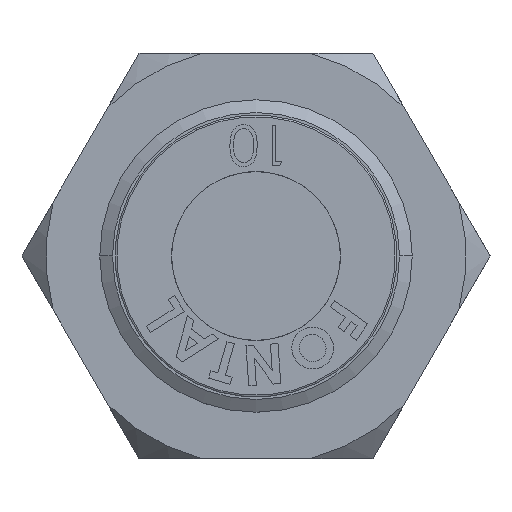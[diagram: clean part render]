
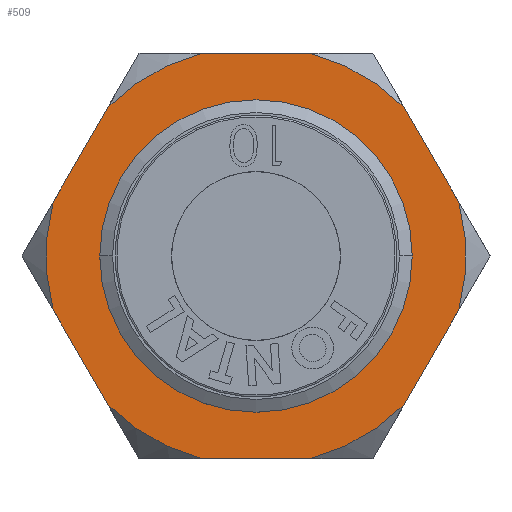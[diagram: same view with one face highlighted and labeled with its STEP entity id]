
A CAD part, left-side view. The second image highlights one B-rep face of the part: STEP entity #509.
In plain terms, the highlighted planar face has unit normal (-1, 0, 0) as drawn and (0, 0, -1) by its records, which use the part's own axes.
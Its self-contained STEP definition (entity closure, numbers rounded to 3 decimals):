
#138 = LINE ( 'NONE', #8660, #8904 ) ;
#211 = VECTOR ( 'NONE', #4998, 1000. ) ;
#215 = CARTESIAN_POINT ( 'NONE',  ( 12., 6.928, 0. ) ) ;
#281 = CIRCLE ( 'NONE', #3184, 12.431 ) ;
#418 = EDGE_CURVE ( 'NONE', #3896, #1962, #138, .T. ) ;
#509 = ADVANCED_FACE ( 'NONE', ( #3554, #5517 ), #4385, .F. ) ;
#513 = CIRCLE ( 'NONE', #4150, 9.25 ) ;
#623 = VERTEX_POINT ( 'NONE', #7894 ) ;
#647 = CARTESIAN_POINT ( 'NONE',  ( 0., 0., 0. ) ) ;
#664 = EDGE_CURVE ( 'NONE', #6565, #841, #6228, .T. ) ;
#739 = CARTESIAN_POINT ( 'NONE',  ( 0., 0., 0. ) ) ;
#743 = DIRECTION ( 'NONE',  ( 0., 0., 1. ) ) ;
#781 = CARTESIAN_POINT ( 'NONE',  ( 0., 0., 0. ) ) ;
#841 = VERTEX_POINT ( 'NONE', #9505 ) ;
#885 = CIRCLE ( 'NONE', #2480, 12.431 ) ;
#909 = VERTEX_POINT ( 'NONE', #3669 ) ;
#983 = CIRCLE ( 'NONE', #2148, 12.431 ) ;
#1069 = VECTOR ( 'NONE', #3427, 1000. ) ;
#1226 = CIRCLE ( 'NONE', #3318, 12.431 ) ;
#1254 = LINE ( 'NONE', #8360, #5242 ) ;
#1265 = VERTEX_POINT ( 'NONE', #2708 ) ;
#1431 = CARTESIAN_POINT ( 'NONE',  ( -8.81, 8.77, 0. ) ) ;
#1446 = DIRECTION ( 'NONE',  ( 1., 0., 0. ) ) ;
#1476 = DIRECTION ( 'NONE',  ( 0., 0., 1. ) ) ;
#1495 = EDGE_CURVE ( 'NONE', #6565, #1997, #6593, .T. ) ;
#1527 = EDGE_LOOP ( 'NONE', ( #5225, #4984 ) ) ;
#1596 = EDGE_CURVE ( 'NONE', #1265, #3127, #2021, .T. ) ;
#1849 = LINE ( 'NONE', #4379, #211 ) ;
#1962 = VERTEX_POINT ( 'NONE', #7410 ) ;
#1975 = LINE ( 'NONE', #215, #8957 ) ;
#1997 = VERTEX_POINT ( 'NONE', #1431 ) ;
#2021 = CIRCLE ( 'NONE', #8479, 9.25 ) ;
#2049 = CARTESIAN_POINT ( 'NONE',  ( -12., 3.244, 0. ) ) ;
#2148 = AXIS2_PLACEMENT_3D ( 'NONE', #6865, #8378, #9013 ) ;
#2234 = DIRECTION ( 'NONE',  ( 1., 0., 0. ) ) ;
#2480 = AXIS2_PLACEMENT_3D ( 'NONE', #6425, #4805, #8594 ) ;
#2655 = VERTEX_POINT ( 'NONE', #7525 ) ;
#2705 = DIRECTION ( 'NONE',  ( 0., 1., 0. ) ) ;
#2708 = CARTESIAN_POINT ( 'NONE',  ( 9.25, 0., 0. ) ) ;
#2709 = CARTESIAN_POINT ( 'NONE',  ( -9.25, 0., 0. ) ) ;
#2818 = EDGE_CURVE ( 'NONE', #3411, #1997, #1849, .T. ) ;
#3007 = ORIENTED_EDGE ( 'NONE', *, *, #7856, .T. ) ;
#3030 = DIRECTION ( 'NONE',  ( 1., 0., 0. ) ) ;
#3127 = VERTEX_POINT ( 'NONE', #2709 ) ;
#3184 = AXIS2_PLACEMENT_3D ( 'NONE', #8567, #7748, #8469 ) ;
#3190 = CARTESIAN_POINT ( 'NONE',  ( -3.19, 12.015, 0. ) ) ;
#3258 = DIRECTION ( 'NONE',  ( 0.866, 0.5, 0. ) ) ;
#3287 = ORIENTED_EDGE ( 'NONE', *, *, #418, .F. ) ;
#3318 = AXIS2_PLACEMENT_3D ( 'NONE', #7906, #4163, #4306 ) ;
#3324 = CARTESIAN_POINT ( 'NONE',  ( -12., 6.928, 0. ) ) ;
#3385 = EDGE_CURVE ( 'NONE', #5190, #909, #1254, .T. ) ;
#3411 = VERTEX_POINT ( 'NONE', #3190 ) ;
#3427 = DIRECTION ( 'NONE',  ( 0., -1., 0. ) ) ;
#3439 = EDGE_CURVE ( 'NONE', #8536, #9632, #1975, .T. ) ;
#3554 = FACE_BOUND ( 'NONE', #1527, .T. ) ;
#3669 = CARTESIAN_POINT ( 'NONE',  ( 8.81, -8.77, 0. ) ) ;
#3798 = AXIS2_PLACEMENT_3D ( 'NONE', #739, #5263, #6011 ) ;
#3855 = ORIENTED_EDGE ( 'NONE', *, *, #3439, .F. ) ;
#3896 = VERTEX_POINT ( 'NONE', #7129 ) ;
#4031 = CARTESIAN_POINT ( 'NONE',  ( 3.19, 12.015, 0. ) ) ;
#4060 = LINE ( 'NONE', #7321, #6408 ) ;
#4150 = AXIS2_PLACEMENT_3D ( 'NONE', #8917, #1476, #2234 ) ;
#4163 = DIRECTION ( 'NONE',  ( 0., 0., -1. ) ) ;
#4306 = DIRECTION ( 'NONE',  ( 1., 0., 0. ) ) ;
#4379 = CARTESIAN_POINT ( 'NONE',  ( 0., 13.856, 0. ) ) ;
#4385 = PLANE ( 'NONE',  #6690 ) ;
#4458 = ORIENTED_EDGE ( 'NONE', *, *, #1495, .T. ) ;
#4468 = EDGE_LOOP ( 'NONE', ( #5486, #6201, #8076, #3007, #3287, #6429, #5649, #4458, #6204, #7609, #3855, #5166 ) ) ;
#4805 = DIRECTION ( 'NONE',  ( 0., 0., -1. ) ) ;
#4984 = ORIENTED_EDGE ( 'NONE', *, *, #9098, .T. ) ;
#4998 = DIRECTION ( 'NONE',  ( -0.866, -0.5, 0. ) ) ;
#5166 = ORIENTED_EDGE ( 'NONE', *, *, #5641, .T. ) ;
#5190 = VERTEX_POINT ( 'NONE', #5477 ) ;
#5225 = ORIENTED_EDGE ( 'NONE', *, *, #1596, .T. ) ;
#5242 = VECTOR ( 'NONE', #3258, 1000. ) ;
#5263 = DIRECTION ( 'NONE',  ( 0., 0., -1. ) ) ;
#5477 = CARTESIAN_POINT ( 'NONE',  ( 3.19, -12.015, 0. ) ) ;
#5486 = ORIENTED_EDGE ( 'NONE', *, *, #5812, .F. ) ;
#5517 = FACE_OUTER_BOUND ( 'NONE', #4468, .T. ) ;
#5574 = AXIS2_PLACEMENT_3D ( 'NONE', #781, #6021, #9003 ) ;
#5641 = EDGE_CURVE ( 'NONE', #8536, #2655, #885, .T. ) ;
#5649 = ORIENTED_EDGE ( 'NONE', *, *, #664, .F. ) ;
#5812 = EDGE_CURVE ( 'NONE', #623, #2655, #4060, .T. ) ;
#6011 = DIRECTION ( 'NONE',  ( 1., 0., 0. ) ) ;
#6021 = DIRECTION ( 'NONE',  ( 0., 0., -1. ) ) ;
#6201 = ORIENTED_EDGE ( 'NONE', *, *, #7272, .T. ) ;
#6204 = ORIENTED_EDGE ( 'NONE', *, *, #2818, .F. ) ;
#6228 = LINE ( 'NONE', #3324, #1069 ) ;
#6408 = VECTOR ( 'NONE', #2705, 1000. ) ;
#6424 = CARTESIAN_POINT ( 'NONE',  ( 8.81, 8.77, 0. ) ) ;
#6425 = CARTESIAN_POINT ( 'NONE',  ( 0., 0., 0. ) ) ;
#6429 = ORIENTED_EDGE ( 'NONE', *, *, #9462, .T. ) ;
#6565 = VERTEX_POINT ( 'NONE', #2049 ) ;
#6593 = CIRCLE ( 'NONE', #3798, 12.431 ) ;
#6690 = AXIS2_PLACEMENT_3D ( 'NONE', #647, #743, #1446 ) ;
#6856 = CIRCLE ( 'NONE', #5574, 12.431 ) ;
#6865 = CARTESIAN_POINT ( 'NONE',  ( 0., 0., 0. ) ) ;
#7129 = CARTESIAN_POINT ( 'NONE',  ( -8.81, -8.77, 0. ) ) ;
#7272 = EDGE_CURVE ( 'NONE', #623, #909, #281, .T. ) ;
#7321 = CARTESIAN_POINT ( 'NONE',  ( 12., -6.928, 0. ) ) ;
#7362 = EDGE_CURVE ( 'NONE', #3411, #9632, #1226, .T. ) ;
#7410 = CARTESIAN_POINT ( 'NONE',  ( -3.19, -12.015, 0. ) ) ;
#7525 = CARTESIAN_POINT ( 'NONE',  ( 12., 3.244, 0. ) ) ;
#7602 = CARTESIAN_POINT ( 'NONE',  ( 0., 0., 0. ) ) ;
#7609 = ORIENTED_EDGE ( 'NONE', *, *, #7362, .T. ) ;
#7748 = DIRECTION ( 'NONE',  ( 0., 0., -1. ) ) ;
#7856 = EDGE_CURVE ( 'NONE', #5190, #1962, #983, .T. ) ;
#7894 = CARTESIAN_POINT ( 'NONE',  ( 12., -3.244, 0. ) ) ;
#7906 = CARTESIAN_POINT ( 'NONE',  ( 0., 0., 0. ) ) ;
#8076 = ORIENTED_EDGE ( 'NONE', *, *, #3385, .F. ) ;
#8360 = CARTESIAN_POINT ( 'NONE',  ( 0., -13.856, 0. ) ) ;
#8378 = DIRECTION ( 'NONE',  ( 0., 0., -1. ) ) ;
#8469 = DIRECTION ( 'NONE',  ( 1., 0., 0. ) ) ;
#8479 = AXIS2_PLACEMENT_3D ( 'NONE', #7602, #9017, #3030 ) ;
#8536 = VERTEX_POINT ( 'NONE', #6424 ) ;
#8567 = CARTESIAN_POINT ( 'NONE',  ( 0., 0., 0. ) ) ;
#8594 = DIRECTION ( 'NONE',  ( 1., 0., 0. ) ) ;
#8660 = CARTESIAN_POINT ( 'NONE',  ( -12., -6.928, 0. ) ) ;
#8763 = DIRECTION ( 'NONE',  ( 0.866, -0.5, 0. ) ) ;
#8904 = VECTOR ( 'NONE', #8763, 1000. ) ;
#8917 = CARTESIAN_POINT ( 'NONE',  ( 0., 0., 0. ) ) ;
#8957 = VECTOR ( 'NONE', #9078, 1000. ) ;
#9003 = DIRECTION ( 'NONE',  ( 1., 0., 0. ) ) ;
#9013 = DIRECTION ( 'NONE',  ( 1., 0., 0. ) ) ;
#9017 = DIRECTION ( 'NONE',  ( 0., 0., 1. ) ) ;
#9078 = DIRECTION ( 'NONE',  ( -0.866, 0.5, 0. ) ) ;
#9098 = EDGE_CURVE ( 'NONE', #3127, #1265, #513, .T. ) ;
#9462 = EDGE_CURVE ( 'NONE', #3896, #841, #6856, .T. ) ;
#9505 = CARTESIAN_POINT ( 'NONE',  ( -12., -3.244, 0. ) ) ;
#9632 = VERTEX_POINT ( 'NONE', #4031 ) ;
